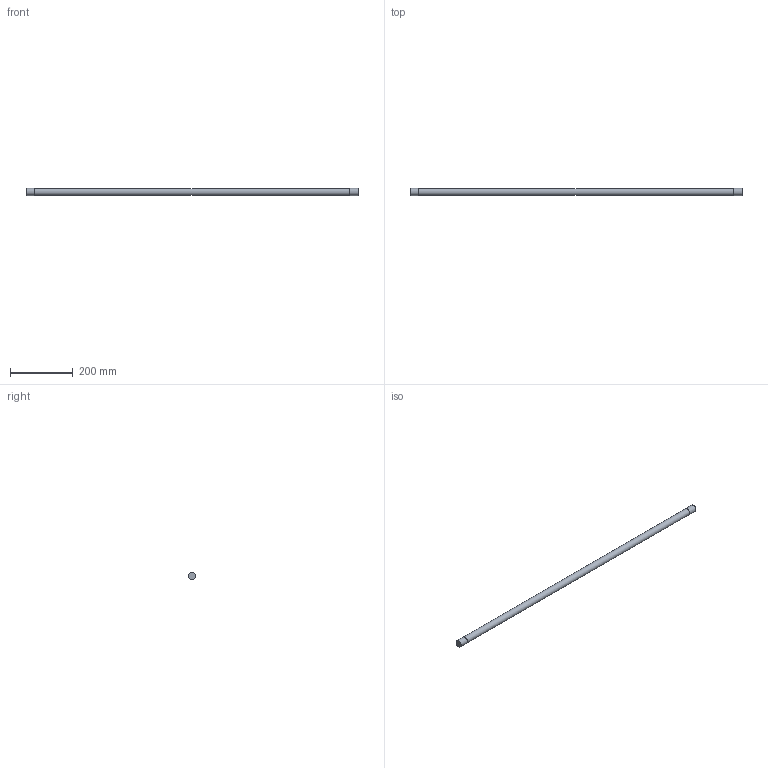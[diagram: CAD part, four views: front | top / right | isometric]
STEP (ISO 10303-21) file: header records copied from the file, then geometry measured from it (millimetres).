
FILE_DESCRIPTION(('FreeCAD Model'),'2;1');
FILE_NAME('Open CASCADE Shape Model','2026-10-12T23:06:14',('Author'),( ''),'Open CASCADE STEP processor 7.8','FreeCAD','Unknown');
FILE_SCHEMA(('AUTOMOTIVE_DESIGN { 1 0 10303 214 1 1 1 1 }'));
Length unit declared in the file: millimetre
Products named in the file (4): noodles; Rope_spaghetti_1m; EndCap_Start; EndCap_End
Assembly tree (3 placements, depth 2):
  noodles
    Rope_spaghetti_1m
    EndCap_Start
    EndCap_End
Bounding box: 1056 x 22.88 x 22.88 mm (x, y, z)
Volume: 403157.2 mm3; surface area: 75545.2 mm2
Topology: 3 solids, 3 shells, 9 faces, 9 edges, 6 vertices
Faces by surface type: plane 6, cylinder 3
Full cylindrical faces by diameter (mm): 22 x1, 22.88 x2
Entity records: 229 total; most frequent: DIRECTION 41, CARTESIAN_POINT 28, AXIS2_PLACEMENT_3D 19, ORIENTED_EDGE 18, ADVANCED_FACE 9, FACE_BOUND 9, EDGE_LOOP 9, EDGE_CURVE 9
